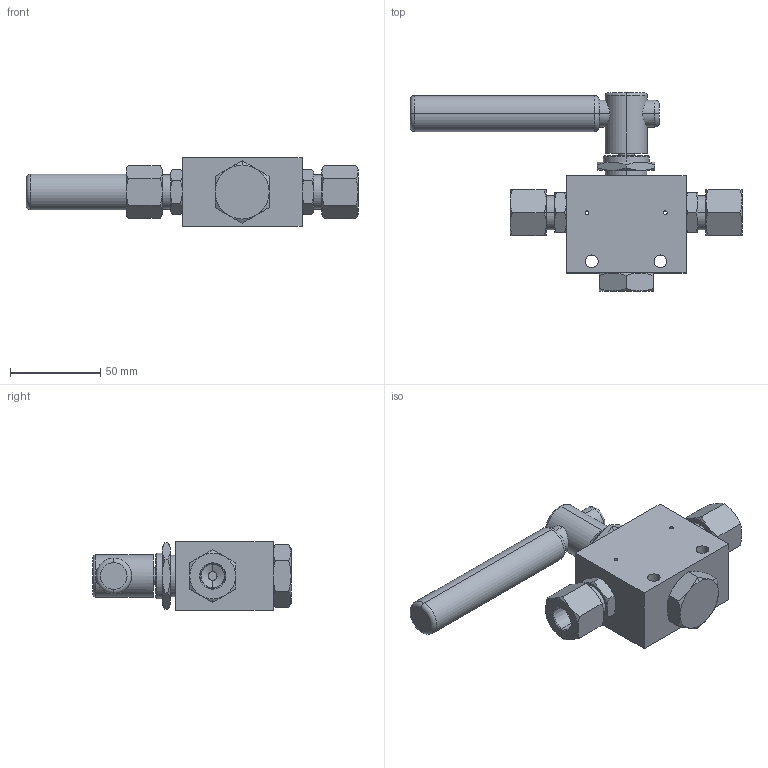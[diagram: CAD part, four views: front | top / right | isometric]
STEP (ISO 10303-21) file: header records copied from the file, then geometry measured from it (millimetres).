
FILE_DESCRIPTION (( 'STEP AP203' ), '1' );
FILE_NAME ('BVN03S04-2-90.STEP', '2022-04-07T10:03:34', ( '' ), ( '' ), 'SwSTEP 2.0', 'SolidWorks 2020', '' );
FILE_SCHEMA (( 'CONFIG_CONTROL_DESIGN' ));
Length unit declared in the file: millimetre
Products named in the file (1): BVN03S04-2-90
Bounding box: 184.33 x 110 x 38 mm (x, y, z)
Volume: 221977.3 mm3; surface area: 39598.8 mm2
Topology: 1 solids, 1 shells, 202 faces, 440 edges, 254 vertices
Faces by surface type: cone 102, plane 58, cylinder 34, torus 8
Entity records: 6181 total; most frequent: CARTESIAN_POINT 1881, ORIENTED_EDGE 872, DIRECTION 870, EDGE_CURVE 436, AXIS2_PLACEMENT_3D 379, VERTEX_POINT 254, EDGE_LOOP 228, ADVANCED_FACE 202
